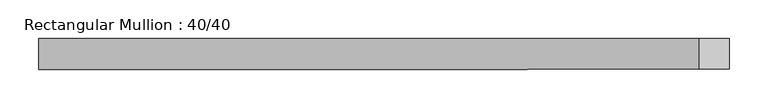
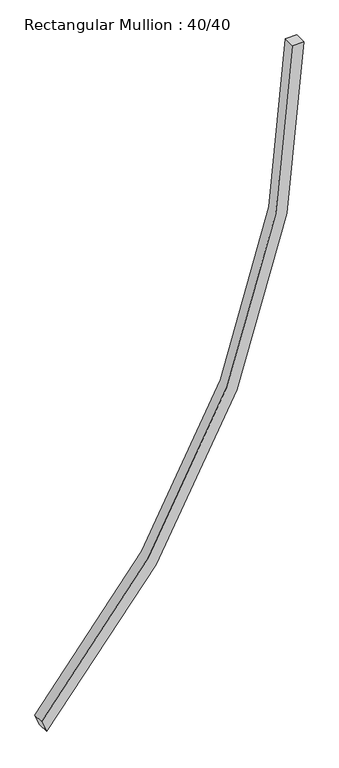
"""IFC4 building model written with IfcOpenShell, lengths in millimetres: member geometry, Rectangular Mullion : 40/40."""

from ifc_helpers import new_model, si_unit, point, frame, frame_2d, origin, place, context, project, spatial, polyline, circle_curve, trimmed, segment, composite_curve, outline, extrude, source, transform, mapped, element, save


def rectangular_mullion_40_40_d6f90903(model_context):
    return source(origin(), model_context, "Body", "SweptSolid", [
        extrude(outline(composite_curve([segment(trimmed(circle_curve(frame_2d((0.0, -3144.0794878)), 3144.0794878), [point((-2180.1643056, -878.6613307))], [point((0.0, 0.0))], False, "CARTESIAN"), True, "CONTINUOUS"), segment(polyline([(0.0, 0.0), (0.0, -40.0)]), True, "CONTINUOUS"), segment(trimmed(circle_curve(frame_2d((0.0, -3144.0794878)), 3104.0794878), [point((0.0, -40.0))], [point((-2140.1138152, -895.6973307))], True, "CARTESIAN"), True, "CONTINUOUS"), segment(polyline([(-2140.1138152, -895.6973307), (-2180.1643056, -878.6613307)]), True, "CONTINUOUS")], self_intersect=False)), frame((0.0, -20.0, 0.0), z_axis=(0.0, 1.0, 0.0), x_axis=(0.0, 0.0, 1.0)), (0.0, 0.0, 1.0), 40.0),
    ])


if __name__ == "__main__":
    model = new_model("IFC4")
    model_context = context("Model", 3, world=origin())
    ifc_project = project(units=[si_unit("LENGTHUNIT", "METRE", prefix="MILLI")], contexts=[model_context])
    site = spatial("IfcSite", under=ifc_project)
    building = spatial("IfcBuilding", under=site)
    placement = place(None, origin())
    rectangular_mullion_40_40_shape = rectangular_mullion_40_40_d6f90903(model_context)
    element("IfcMember", 1, ObjectType="Rectangular Mullion : 40/40", at=placement, inside=building, context=model_context, shape_type="MappedRepresentation", body=[
        mapped(rectangular_mullion_40_40_shape, transform((0.0, 0.0, 0.0), x_axis=(1.0, 0.0, 0.0), y_axis=(0.0, 1.0, 0.0), z_axis=(0.0, 0.0, 1.0))),
    ])
    save(model, "model.ifc")
